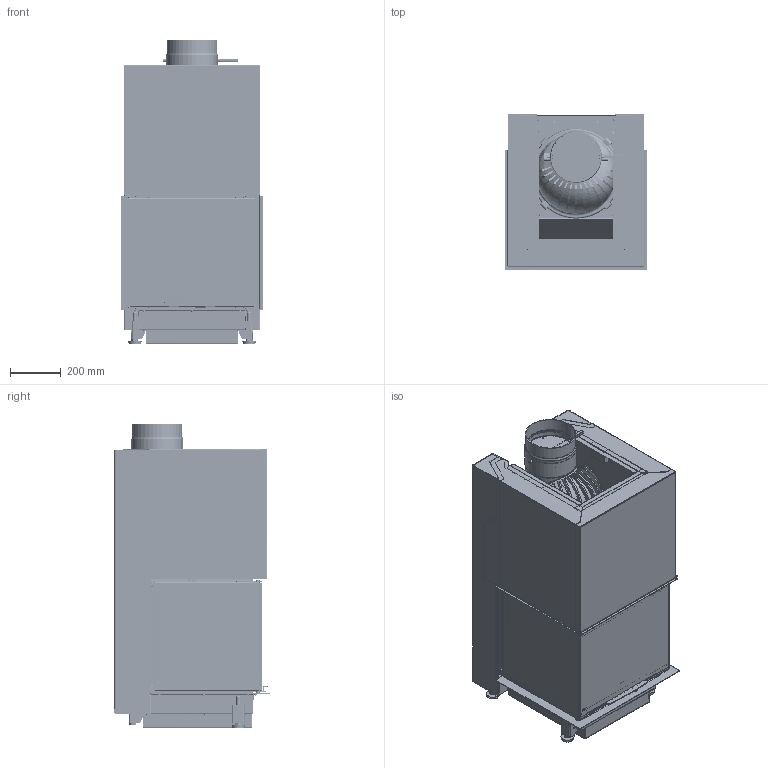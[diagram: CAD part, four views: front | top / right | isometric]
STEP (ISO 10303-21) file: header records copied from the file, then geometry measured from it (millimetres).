
FILE_DESCRIPTION(/* description */ (''),/* implementation_level */ '2;1');
FILE_NAME(/* name */ 'C:\ADSK_DM_WS\CAD_3D\03 Geraete\RIII 45x56x46\Zeichnungen\RIII 45x56x46 Gen.2 ohne Mantel Abgang oben CAD Planung defriten 2021-03157 211124.stp',/* time_stamp */ '2021-11-24T09:32:26+01:00',/* author */ ('CPI'),/* organization */ (''),/* preprocessor_version */ 'ST-DEVELOPER v18.1',/* originating_system */ 'Autodesk Inventor 2022',/* authorisation */ '');
FILE_SCHEMA (('AUTOMOTIVE_DESIGN { 1 0 10303 214 3 1 1 }'));
Products named in the file (8): 2021-03157; 2021-03138; 2021-03145; 2021-03147; 2021-03149; 2021-03151; 2021-03155; 2018-00985
Assembly tree (7 placements, depth 2):
  2021-03157
    2021-03138
    2021-03145
    2021-03147
    2021-03149
    2021-03151
    2021-03155
    2018-00985
Bounding box: 560 x 612 x 1199 mm (x, y, z)
Volume: 26698631 mm3; surface area: 13124303.3 mm2
Topology: 19 solids, 33 shells, 7771 faces, 21464 edges, 13560 vertices
Faces by surface type: plane 4667, cylinder 2604, bspline 225, cone 214, torus 60, sphere 1
Full cylindrical faces by diameter (mm): 3.242 x6, 4 x9, 4.8 x1, 6 x3, 7.5 x8, 7.9 x2, 10 x19, 10.21 x4, 12 x4, 16 x10, 20 x4, 30 x4, 163 x1, 194 x1, 198 x1, 200 x1, 204 x1, 333 x1, 339 x1
Entity records: 260273 total; most frequent: CARTESIAN_POINT 55539, ORIENTED_EDGE 42820, DIRECTION 41626, EDGE_CURVE 21467, LINE 14032, VECTOR 14032, AXIS2_PLACEMENT_3D 13797, VERTEX_POINT 13556
